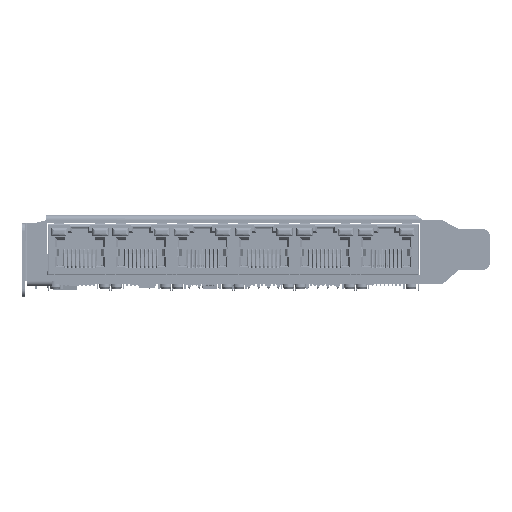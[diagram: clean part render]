
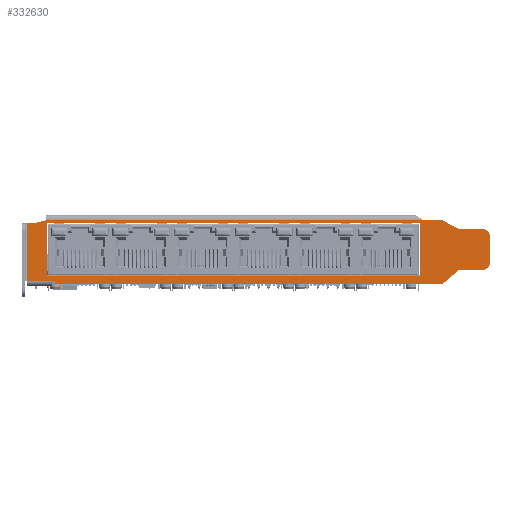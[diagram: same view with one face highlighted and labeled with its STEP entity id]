
A CAD part, left-side view. The second image highlights one B-rep face of the part: STEP entity #332630.
In plain terms, the highlighted planar face has unit normal (-1, 0, 0) as drawn and (0, 0, 1) by its records, which use the part's own axes.
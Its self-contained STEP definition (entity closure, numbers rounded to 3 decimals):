
#331652=DIRECTION('',(0.,1.,0.));
#331653=VECTOR('',#331652,99.67);
#331654=CARTESIAN_POINT('',(3.528,-43.684,0.));
#331655=LINE('',#331654,#331653);
#331660=DIRECTION('',(-1.,0.,0.));
#331661=VECTOR('',#331660,0.7);
#331662=CARTESIAN_POINT('',(3.528,-43.684,0.));
#331663=LINE('',#331662,#331661);
#331664=DIRECTION('',(0.,-1.,0.));
#331665=VECTOR('',#331664,0.917);
#331666=CARTESIAN_POINT('',(2.828,-43.684,0.));
#331667=LINE('',#331666,#331665);
#331668=DIRECTION('',(0.,1.,
0.));
#331669=VECTOR('',#331668,1.575);
#331670=CARTESIAN_POINT('',(-11.97,-50.814,
0.));
#331671=LINE('',#331670,#331669);
#331672=DIRECTION('',(-0.231,0.973,0.));
#331673=VECTOR('',#331672,3.253);
#331674=CARTESIAN_POINT('',(-11.971,-49.239,0.));
#331675=LINE('',#331674,#331673);
#331676=DIRECTION('',(0.,1.,0.));
#331677=VECTOR('',#331676,5.052);
#331678=CARTESIAN_POINT('',(-12.722,50.685,0.));
#331679=LINE('',#331678,#331677);
#331680=DIRECTION('',(0.468,0.884,0.));
#331681=VECTOR('',#331680,4.809);
#331682=CARTESIAN_POINT('',(-12.722,55.736,0.));
#331683=LINE('',#331682,#331681);
#331684=DIRECTION('',(0.,1.,0.));
#331685=VECTOR('',#331684,6.);
#331686=CARTESIAN_POINT('',(-10.472,59.986,0.));
#331687=LINE('',#331686,#331685);
#331688=CARTESIAN_POINT('',(-8.472,65.986,0.));
#331689=DIRECTION('',(0.,0.,-1.));
#331690=DIRECTION('',(-1.,0.,0.));
#331691=AXIS2_PLACEMENT_3D('',#331688,#331689,#331690);
#331693=DIRECTION('',(1.,0.,0.));
#331694=VECTOR('',#331693,6.5);
#331695=CARTESIAN_POINT('',(-8.472,67.986,0.));
#331696=LINE('',#331695,#331694);
#331697=CARTESIAN_POINT('',(-1.972,65.986,0.));
#331698=DIRECTION('',(0.,0.,-1.));
#331699=DIRECTION('',(0.,1.,0.));
#331700=AXIS2_PLACEMENT_3D('',#331697,#331698,#331699);
#331702=DIRECTION('',(0.,-1.,0.));
#331703=VECTOR('',#331702,6.);
#331704=CARTESIAN_POINT('',(0.028,65.986,0.));
#331705=LINE('',#331704,#331703);
#331706=DIRECTION('',(0.659,-0.753,0.));
#331707=VECTOR('',#331706,5.315);
#331708=CARTESIAN_POINT('',(0.028,59.986,0.));
#331709=LINE('',#331708,#331707);
#331710=DIRECTION('',(1.,0.,0.));
#331711=VECTOR('',#331710,13.783);
#331712=CARTESIAN_POINT('',(-12.119,-45.912,0.));
#331713=LINE('',#331712,#331711);
#331714=DIRECTION('',(0.,1.,0.));
#331715=VECTOR('',#331714,95.854);
#331716=CARTESIAN_POINT('',(1.664,-45.912,0.));
#331717=LINE('',#331716,#331715);
#331718=DIRECTION('',(-1.,0.,0.));
#331719=VECTOR('',#331718,13.783);
#331720=CARTESIAN_POINT('',(1.664,49.943,0.));
#331721=LINE('',#331720,#331719);
#331722=DIRECTION('',(0.,-1.,0.));
#331723=VECTOR('',#331722,95.854);
#331724=CARTESIAN_POINT('',(-12.119,49.943,0.));
#331725=LINE('',#331724,#331723);
#331790=DIRECTION('',(0.,1.,0.));
#331791=VECTOR('',#331790,6.212);
#331792=CARTESIAN_POINT('',(2.828,-50.814,0.));
#331793=LINE('',#331792,#331791);
#331967=DIRECTION('',(1.,0.,0.));
#331968=VECTOR('',#331967,14.798);
#331969=CARTESIAN_POINT('',(-11.97,-50.814,
0.));
#331970=LINE('',#331969,#331968);
#332147=DIRECTION('',(0.,-1.,0.));
#332148=VECTOR('',#332147,96.758);
#332149=CARTESIAN_POINT('',(-12.722,50.685,0.));
#332150=LINE('',#332149,#332148);
#332327=CARTESIAN_POINT('',(3.528,-43.684,0.));
#332328=CARTESIAN_POINT('',(2.828,-43.684,0.));
#332329=VERTEX_POINT('',#332327);
#332330=VERTEX_POINT('',#332328);
#332331=CARTESIAN_POINT('',(2.828,-44.602,0.));
#332332=VERTEX_POINT('',#332331);
#332333=CARTESIAN_POINT('',(2.828,-50.814,0.));
#332334=VERTEX_POINT('',#332333);
#332335=CARTESIAN_POINT('',(-11.97,-50.814,
0.));
#332336=VERTEX_POINT('',#332335);
#332337=CARTESIAN_POINT('',(-11.971,-49.239,0.));
#332338=VERTEX_POINT('',#332337);
#332339=CARTESIAN_POINT('',(-12.722,-46.073,0.));
#332340=VERTEX_POINT('',#332339);
#332341=CARTESIAN_POINT('',(-12.722,50.685,0.));
#332342=VERTEX_POINT('',#332341);
#332343=CARTESIAN_POINT('',(-12.722,55.736,0.));
#332344=VERTEX_POINT('',#332343);
#332345=CARTESIAN_POINT('',(-10.472,59.986,0.));
#332346=VERTEX_POINT('',#332345);
#332347=CARTESIAN_POINT('',(-10.472,65.986,0.));
#332348=VERTEX_POINT('',#332347);
#332349=CARTESIAN_POINT('',(-8.472,67.986,0.));
#332350=VERTEX_POINT('',#332349);
#332351=CARTESIAN_POINT('',(-1.972,67.986,0.));
#332352=VERTEX_POINT('',#332351);
#332353=CARTESIAN_POINT('',(0.028,65.986,0.));
#332354=VERTEX_POINT('',#332353);
#332355=CARTESIAN_POINT('',(0.028,59.986,0.));
#332356=VERTEX_POINT('',#332355);
#332357=CARTESIAN_POINT('',(3.528,55.986,0.));
#332358=VERTEX_POINT('',#332357);
#332475=CARTESIAN_POINT('',(-12.119,-45.912,0.));
#332476=CARTESIAN_POINT('',(1.664,-45.912,0.));
#332477=VERTEX_POINT('',#332475);
#332478=VERTEX_POINT('',#332476);
#332479=CARTESIAN_POINT('',(1.664,49.943,0.));
#332480=VERTEX_POINT('',#332479);
#332481=CARTESIAN_POINT('',(-12.119,49.943,0.));
#332482=VERTEX_POINT('',#332481);
#332582=CARTESIAN_POINT('',(0.,0.,0.));
#332583=DIRECTION('',(0.,0.,1.));
#332584=DIRECTION('',(1.,0.,0.));
#332585=AXIS2_PLACEMENT_3D('',#332582,#332583,#332584);
#332586=PLANE('',#332585);
#332587=ORIENTED_EDGE('',*,*,#332572,.F.);
#332589=ORIENTED_EDGE('',*,*,#332588,.T.);
#332591=ORIENTED_EDGE('',*,*,#332590,.T.);
#332593=ORIENTED_EDGE('',*,*,#332592,.F.);
#332595=ORIENTED_EDGE('',*,*,#332594,.F.);
#332597=ORIENTED_EDGE('',*,*,#332596,.T.);
#332599=ORIENTED_EDGE('',*,*,#332598,.T.);
#332601=ORIENTED_EDGE('',*,*,#332600,.F.);
#332603=ORIENTED_EDGE('',*,*,#332602,.T.);
#332605=ORIENTED_EDGE('',*,*,#332604,.T.);
#332607=ORIENTED_EDGE('',*,*,#332606,.T.);
#332609=ORIENTED_EDGE('',*,*,#332608,.T.);
#332611=ORIENTED_EDGE('',*,*,#332610,.T.);
#332613=ORIENTED_EDGE('',*,*,#332612,.T.);
#332615=ORIENTED_EDGE('',*,*,#332614,.T.);
#332617=ORIENTED_EDGE('',*,*,#332616,.T.);
#332618=EDGE_LOOP('',(#332587,#332589,#332591,#332593,#332595,#332597,#332599,
#332601,#332603,#332605,#332607,#332609,#332611,#332613,#332615,#332617));
#332619=FACE_OUTER_BOUND('',#332618,.F.);
#332621=ORIENTED_EDGE('',*,*,#332620,.T.);
#332623=ORIENTED_EDGE('',*,*,#332622,.T.);
#332625=ORIENTED_EDGE('',*,*,#332624,.T.);
#332627=ORIENTED_EDGE('',*,*,#332626,.T.);
#332628=EDGE_LOOP('',(#332621,#332623,#332625,#332627));
#332629=FACE_BOUND('',#332628,.F.);
#332630=ADVANCED_FACE('',(#332619,#332629),#332586,.T.);
#331692=CIRCLE('',#331691,2.);
#331701=CIRCLE('',#331700,2.);
#332572=EDGE_CURVE('',#332329,#332358,#331655,.T.);
#332588=EDGE_CURVE('',#332329,#332330,#331663,.T.);
#332590=EDGE_CURVE('',#332330,#332332,#331667,.T.);
#332592=EDGE_CURVE('',#332334,#332332,#331793,.T.);
#332594=EDGE_CURVE('',#332336,#332334,#331970,.T.);
#332596=EDGE_CURVE('',#332336,#332338,#331671,.T.);
#332598=EDGE_CURVE('',#332338,#332340,#331675,.T.);
#332600=EDGE_CURVE('',#332342,#332340,#332150,.T.);
#332602=EDGE_CURVE('',#332342,#332344,#331679,.T.);
#332604=EDGE_CURVE('',#332344,#332346,#331683,.T.);
#332606=EDGE_CURVE('',#332346,#332348,#331687,.T.);
#332608=EDGE_CURVE('',#332348,#332350,#331692,.T.);
#332610=EDGE_CURVE('',#332350,#332352,#331696,.T.);
#332612=EDGE_CURVE('',#332352,#332354,#331701,.T.);
#332614=EDGE_CURVE('',#332354,#332356,#331705,.T.);
#332616=EDGE_CURVE('',#332356,#332358,#331709,.T.);
#332620=EDGE_CURVE('',#332477,#332478,#331713,.T.);
#332622=EDGE_CURVE('',#332478,#332480,#331717,.T.);
#332624=EDGE_CURVE('',#332480,#332482,#331721,.T.);
#332626=EDGE_CURVE('',#332482,#332477,#331725,.T.);
